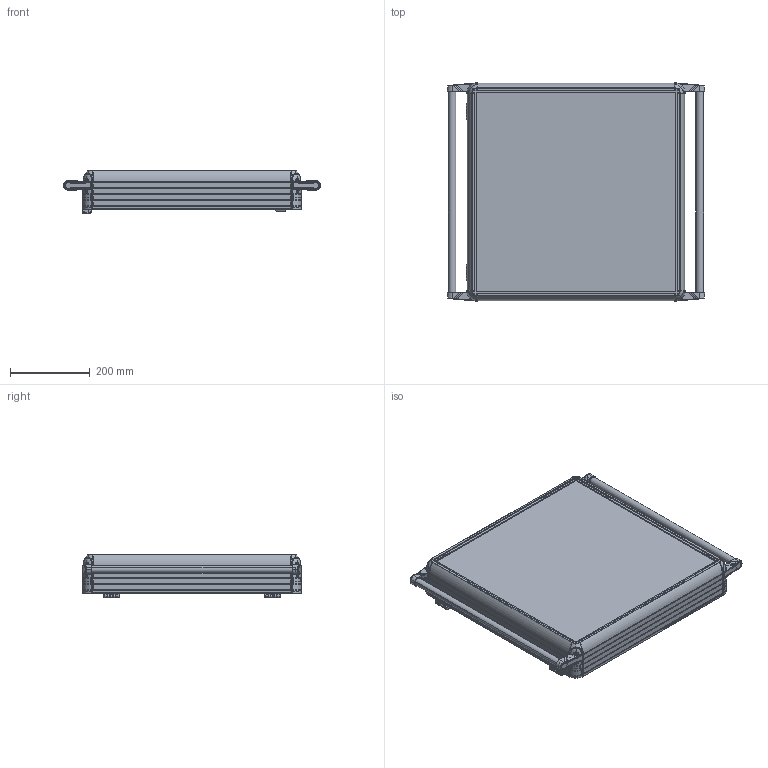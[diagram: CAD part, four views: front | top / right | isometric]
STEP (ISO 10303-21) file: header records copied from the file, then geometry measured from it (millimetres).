
FILE_DESCRIPTION (( 'STEP AP214' ), '1' );
FILE_NAME ('9000-0212.STEP', '2022-09-01T06:37:25', ( '' ), ( '' ), 'SwSTEP 2.0', 'SolidWorks 2022', '' );
FILE_SCHEMA (( 'AUTOMOTIVE_DESIGN' ));
Length unit declared in the file: millimetre
Products named in the file (7): HPECO-090-001-295_494; 500X500; ARKA_KAPAK_500X500; ECO9000-0100(SAÐ); 9000-0212; ECO9000-0100(SOL); boru_525
Assembly tree (12 placements, depth 2):
  9000-0212
    500X500
    ARKA_KAPAK_500X500
    boru_525  x2
    ECO9000-0100(SAÐ)  x2
    ECO9000-0100(SOL)  x2
    HPECO-090-001-295_494  x4
Bounding box: 644.57 x 547 x 109.16 mm (x, y, z)
Volume: 4362510.3 mm3; surface area: 1948127.1 mm2
Topology: 22 solids, 72 shells, 6693 faces, 17752 edges, 10958 vertices
Faces by surface type: plane 2611, cylinder 1836, bspline 1270, cone 590, torus 332, sphere 54
Entity records: 203955 total; most frequent: CARTESIAN_POINT 55285, ORIENTED_EDGE 23382, DIRECTION 19416, EDGE_CURVE 11691, VERTEX_POINT 7246, AXIS2_PLACEMENT_3D 7104, LINE 5208, VECTOR 5208
